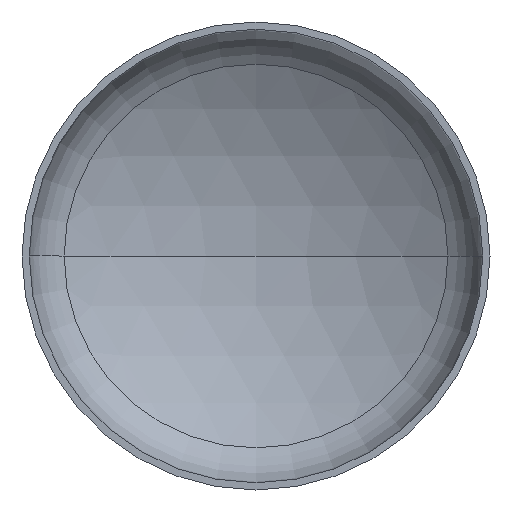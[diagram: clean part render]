
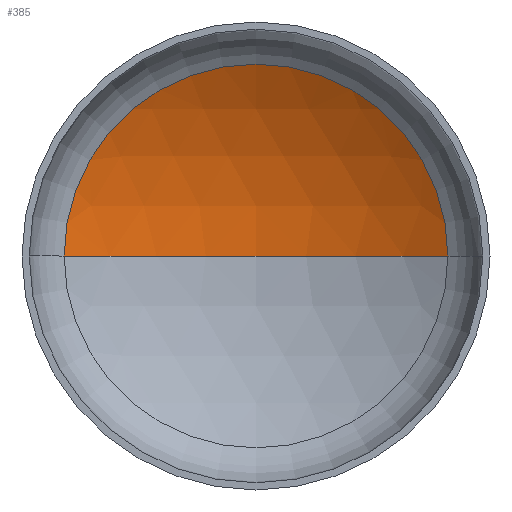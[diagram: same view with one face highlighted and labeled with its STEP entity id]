
A CAD part, front view. The second image highlights one B-rep face of the part: STEP entity #385.
In plain terms, the highlighted spherical face has radius 1440 mm.
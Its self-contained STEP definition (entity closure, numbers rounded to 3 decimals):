
#3 = DIRECTION ( 'NONE',  ( 0., 0., -1. ) ) ;
#18 = VERTEX_POINT ( 'NONE', #197 ) ;
#35 = CIRCLE ( 'NONE', #124, 1440. ) ;
#43 = ORIENTED_EDGE ( 'NONE', *, *, #212, .T. ) ;
#46 = DIRECTION ( 'NONE',  ( -1., 0., 0. ) ) ;
#54 = VERTEX_POINT ( 'NONE', #227 ) ;
#71 = ORIENTED_EDGE ( 'NONE', *, *, #205, .T. ) ;
#74 = EDGE_LOOP ( 'NONE', ( #77, #43, #71 ) ) ;
#77 = ORIENTED_EDGE ( 'NONE', *, *, #215, .F. ) ;
#99 = CARTESIAN_POINT ( 'NONE',  ( 0., 321.148, 0. ) ) ;
#100 = VERTEX_POINT ( 'NONE', #361 ) ;
#120 = AXIS2_PLACEMENT_3D ( 'NONE', #136, #317, #169 ) ;
#124 = AXIS2_PLACEMENT_3D ( 'NONE', #254, #3, #275 ) ;
#128 = AXIS2_PLACEMENT_3D ( 'NONE', #99, #294, #135 ) ;
#135 = DIRECTION ( 'NONE',  ( 1., 0., 0. ) ) ;
#136 = CARTESIAN_POINT ( 'NONE',  ( 0., -915.408, 0. ) ) ;
#144 = DIRECTION ( 'NONE',  ( 0., 0., -1. ) ) ;
#169 = DIRECTION ( 'NONE',  ( 1., 0., 0. ) ) ;
#192 = SPHERICAL_SURFACE ( 'NONE', #332, 1440. ) ;
#197 = CARTESIAN_POINT ( 'NONE',  ( -737.923, 321.148, 0. ) ) ;
#205 = EDGE_CURVE ( 'NONE', #100, #18, #244, .T. ) ;
#212 = EDGE_CURVE ( 'NONE', #54, #100, #35, .T. ) ;
#214 = CARTESIAN_POINT ( 'NONE',  ( 0., -915.408, 0. ) ) ;
#215 = EDGE_CURVE ( 'NONE', #54, #18, #359, .T. ) ;
#227 = CARTESIAN_POINT ( 'NONE',  ( 0., 524.592, 0. ) ) ;
#244 = CIRCLE ( 'NONE', #128, 737.923 ) ;
#254 = CARTESIAN_POINT ( 'NONE',  ( 0., -915.408, 0. ) ) ;
#275 = DIRECTION ( 'NONE',  ( -1., 0., 0. ) ) ;
#294 = DIRECTION ( 'NONE',  ( 0., -1., 0. ) ) ;
#317 = DIRECTION ( 'NONE',  ( 0., 0., 1. ) ) ;
#332 = AXIS2_PLACEMENT_3D ( 'NONE', #214, #144, #46 ) ;
#359 = CIRCLE ( 'NONE', #120, 1440. ) ;
#361 = CARTESIAN_POINT ( 'NONE',  ( 737.923, 321.148, 0. ) ) ;
#385 = ADVANCED_FACE ( 'NONE', ( #386 ), #192, .F. ) ;
#386 = FACE_OUTER_BOUND ( 'NONE', #74, .T. ) ;
